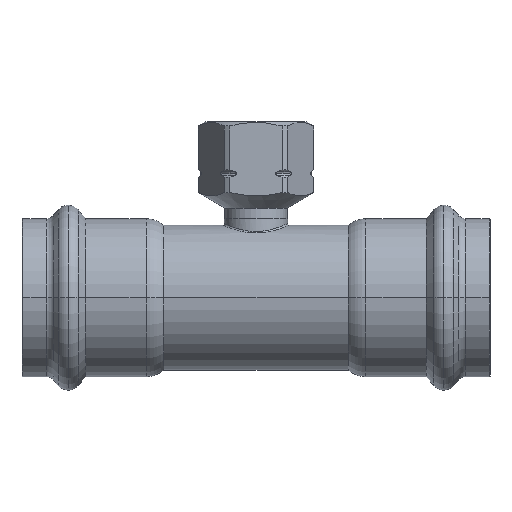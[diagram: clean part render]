
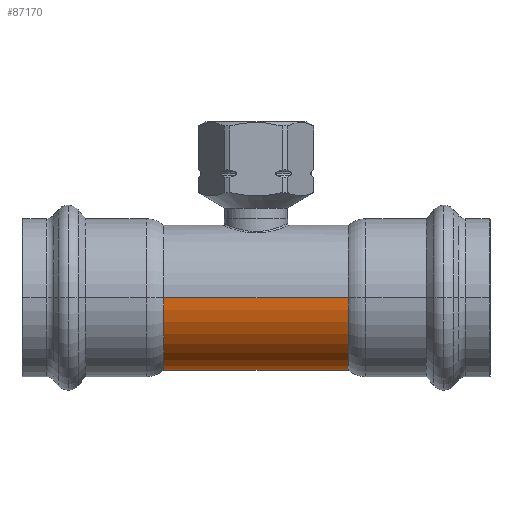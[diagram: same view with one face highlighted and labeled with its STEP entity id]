
A CAD part, left-side view. The second image highlights one B-rep face of the part: STEP entity #87170.
In plain terms, the highlighted cylindrical face has radius 21 mm (diameter 42 mm), a partial arc.
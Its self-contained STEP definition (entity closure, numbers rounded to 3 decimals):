
#5600=CARTESIAN_POINT('',(52.006,36.962,0.));
#5610=VERTEX_POINT('',#5600);
#5700=CARTESIAN_POINT('',(10.006,36.962,0.));
#5710=VERTEX_POINT('',#5700);
#5740=CARTESIAN_POINT('',(31.006,36.962,0.));
#5750=DIRECTION('',(0.,1.,0.));
#5760=DIRECTION('',(-1.,0.,0.));
#5770=AXIS2_PLACEMENT_3D('',#5740,#5750,#5760);
#5780=CIRCLE('',#5770,21.);
#5840=CARTESIAN_POINT('',(31.006,10.162,0.));
#5850=DIRECTION('',(0.,1.,0.));
#5860=DIRECTION('',(1.,0.,0.));
#5870=AXIS2_PLACEMENT_3D('',#5840,#5850,#5860);
#5880=CYLINDRICAL_SURFACE('',#5870,21.);
#5890=CARTESIAN_POINT('',(52.006,10.162,0.));
#5900=DIRECTION('',(0.,1.,0.));
#5910=VECTOR('',#5900,1.);
#5920=LINE('',#5890,#5910);
#5930=CARTESIAN_POINT('',(52.006,-16.638,0.));
#5940=VERTEX_POINT('',#5930);
#5950=EDGE_CURVE('',#5940,#5610,#5920,.T.);
#5980=CARTESIAN_POINT('',(10.006,10.162,
0.));
#5990=DIRECTION('',(0.,1.,0.));
#6000=VECTOR('',#5990,1.);
#6010=LINE('',#5980,#6000);
#6020=CARTESIAN_POINT('',(10.006,-16.638,0.));
#6030=VERTEX_POINT('',#6020);
#6040=EDGE_CURVE('',#6030,#5710,#6010,.T.);
#6060=CARTESIAN_POINT('',(31.006,-16.638,0.));
#6070=DIRECTION('',(0.,1.,0.));
#6080=DIRECTION('',(-1.,0.,0.));
#6090=AXIS2_PLACEMENT_3D('',#6060,#6070,#6080);
#6100=CIRCLE('',#6090,21.);
#87090=EDGE_CURVE('',#6030,#5940,#6100,.T.);
#87100=ORIENTED_EDGE('',*,*,#87090,.T.);
#87110=ORIENTED_EDGE('',*,*,#6040,.F.);
#87120=EDGE_CURVE('',#5710,#5610,#5780,.T.);
#87130=ORIENTED_EDGE('',*,*,#87120,.F.);
#87140=ORIENTED_EDGE('',*,*,#5950,.T.);
#87150=EDGE_LOOP('',(#87140,#87130,#87110,#87100));
#87160=FACE_OUTER_BOUND('',#87150,.T.);
#87170=ADVANCED_FACE('',(#87160),#5880,.T.);
